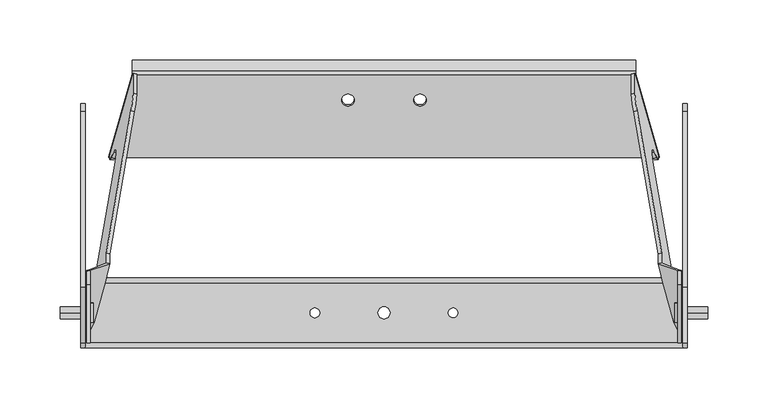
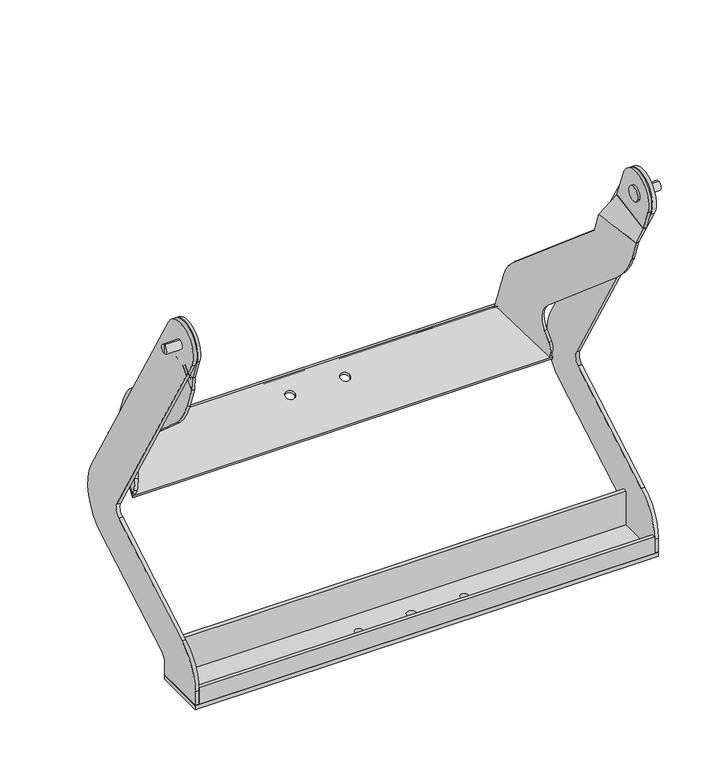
"""IFC4 building model written with IfcOpenShell, lengths in millimetres: proxy geometry, d&b M-Series M4 Flying Bracket : M4 Flying Bracket."""

import ifcopenshell
import ifcopenshell.guid

model = None  # the IFC model being written
_history = None  # IfcOwnerHistory: only IFC2X3 demands one
_inside = {}  # id of a spatial element -> (the spatial element, [elements in it])
_under = {}  # id of a project, library or spatial element -> (it, [spatial elements below it])
_declared = {}  # id of a project -> (the project, [libraries it declares])
_typed = {}  # id of a type object -> (the type object, [elements of that type])
_made_of = {}  # id of a material, layer set ... -> (it, [elements and type objects made of it])


def new_model(schema):
    """Start an empty IFC model of exactly this schema.

    Asked for "IFC4X3", IfcOpenShell would pick the latest addendum, in which some entities
    have other attributes; the version numbers below select the first issue.
    IFC2X3 requires an IfcOwnerHistory on every rooted entity: one is made here for all.
    """
    global model, _history
    if schema == "IFC4X3":
        model = ifcopenshell.file(schema_version=(4, 3, 0, 0))
    else:
        model = ifcopenshell.file(schema=schema)
    _inside.clear()
    _under.clear()
    _declared.clear()
    _typed.clear()
    _made_of.clear()
    _history = None
    if model.schema == "IFC2X3":
        org = make("IfcOrganization", Name="unknown")
        user = make(
            "IfcPersonAndOrganization",
            ThePerson=make("IfcPerson", FamilyName="unknown"),
            TheOrganization=org,
        )
        app = make(
            "IfcApplication",
            ApplicationDeveloper=org,
            Version="unknown",
            ApplicationFullName="unknown",
            ApplicationIdentifier="unknown",
        )
        _history = make(
            "IfcOwnerHistory",
            OwningUser=user,
            OwningApplication=app,
            ChangeAction="ADDED",
            CreationDate=0,
        )
    return model


def make(cls, **values):
    """One entity of the class cls with the attributes given. An attribute that is None is left unset."""
    return model.create_entity(
        cls, **{name: value for name, value in values.items() if value is not None}
    )


def rooted(cls, **values):
    """An entity with a GlobalId (a new one), such as an element, a storey or a relation."""
    return make(cls, GlobalId=ifcopenshell.guid.new(), OwnerHistory=_history, **values)


def si_unit(unit_type, name, prefix=None):
    """IfcSIUnit, for example si_unit("LENGTHUNIT", "METRE", prefix="MILLI")."""
    return make("IfcSIUnit", UnitType=unit_type, Prefix=prefix, Name=name)


def assignment(units):
    """IfcUnitAssignment: the units of a project."""
    return None if units is None else make("IfcUnitAssignment", Units=units)


def point(xyz):
    """IfcCartesianPoint."""
    return None if xyz is None else make("IfcCartesianPoint", Coordinates=xyz)


def direction(xyz):
    """IfcDirection."""
    return None if xyz is None else make("IfcDirection", DirectionRatios=xyz)


def frame(location, z_axis=None, x_axis=None):
    """IfcAxis2Placement3D, a coordinate frame: its origin and axes. An axis left out is left unset."""
    return make(
        "IfcAxis2Placement3D",
        Location=point(location),
        Axis=direction(z_axis),
        RefDirection=direction(x_axis),
    )


def frame_2d(location, x_axis=None):
    """IfcAxis2Placement2D, a coordinate frame in the plane: its origin and x axis."""
    return make(
        "IfcAxis2Placement2D", Location=point(location), RefDirection=direction(x_axis)
    )


def origin():
    """The frame at (0, 0, 0) with its axes left unset."""
    return frame((0.0, 0.0, 0.0))


def origin_2d():
    """The frame at (0, 0) in the plane with its x axis left unset."""
    return frame_2d((0.0, 0.0))


def place(relative_to, where):
    """IfcLocalPlacement: puts the frame where relative to a parent placement (None: the world)."""
    return make(
        "IfcLocalPlacement", PlacementRelTo=relative_to, RelativePlacement=where
    )


def context(
    kind, dimensions, precision=None, world=None, true_north=None, identifier=None
):
    """IfcGeometricRepresentationContext, for example the 3D "Model" context."""
    return make(
        "IfcGeometricRepresentationContext",
        ContextIdentifier=identifier,
        ContextType=kind,
        CoordinateSpaceDimension=dimensions,
        Precision=precision,
        WorldCoordinateSystem=world,
        TrueNorth=true_north,
    )


def project(units=None, contexts=None):
    """IfcProject with its units and contexts."""
    return rooted(
        "IfcProject",
        Name="project",
        RepresentationContexts=contexts,
        UnitsInContext=assignment(units),
    )


def spatial(cls, under=None, at=None, **own):
    """A site, building, storey or space (cls), placed at a placement, below another one or the project."""
    s = rooted(cls, ObjectPlacement=at, **own)
    if under is not None:
        _under.setdefault(under.id(), (under, []))[1].append(s)
    return s


def polyline(points):
    """IfcPolyline through the points."""
    return make("IfcPolyline", Points=[point(p) for p in points])


def circle_curve(where, radius):
    """IfcCircle in the frame where."""
    return make("IfcCircle", Position=where, Radius=radius)


def trimmed(basis, trim1, trim2, sense, master):
    """IfcTrimmedCurve: the piece of a basis curve between two trims."""
    return make(
        "IfcTrimmedCurve",
        BasisCurve=basis,
        Trim1=trim1,
        Trim2=trim2,
        SenseAgreement=sense,
        MasterRepresentation=master,
    )


def segment(curve, same_sense, transition):
    """IfcCompositeCurveSegment."""
    return make(
        "IfcCompositeCurveSegment",
        Transition=transition,
        SameSense=same_sense,
        ParentCurve=curve,
    )


def composite_curve(segments, self_intersect=None):
    """IfcCompositeCurve: segments joined end to end."""
    return make("IfcCompositeCurve", Segments=segments, SelfIntersect=self_intersect)


def outline(outer, holes=None, kind="AREA"):
    """IfcArbitraryClosedProfileDef: a profile drawn as a closed curve; with holes, ...WithVoids."""
    if holes is None:
        return make("IfcArbitraryClosedProfileDef", ProfileType=kind, OuterCurve=outer)
    return make(
        "IfcArbitraryProfileDefWithVoids",
        ProfileType=kind,
        OuterCurve=outer,
        InnerCurves=holes,
    )


def extrude(swept, where, along, depth):
    """IfcExtrudedAreaSolid: the profile swept, set in the frame where, extruded along a direction by depth."""
    return make(
        "IfcExtrudedAreaSolid",
        SweptArea=swept,
        Position=where,
        ExtrudedDirection=direction(along),
        Depth=depth,
    )


def shape(context_of_items, identifier, shape_type, items):
    """IfcShapeRepresentation: the items that make up one representation, for example the "Body"."""
    return make(
        "IfcShapeRepresentation",
        ContextOfItems=context_of_items,
        RepresentationIdentifier=identifier,
        RepresentationType=shape_type,
        Items=items,
    )


def source(mapping_origin, context_of_items, identifier, shape_type, items):
    """IfcRepresentationMap: a shape defined once, which mapped items show again and again."""
    return make(
        "IfcRepresentationMap",
        MappingOrigin=mapping_origin,
        MappedRepresentation=shape(context_of_items, identifier, shape_type, items),
    )


def transform(
    local_origin,
    x_axis=None,
    y_axis=None,
    z_axis=None,
    scale=None,
    scale2=None,
    scale3=None,
    uniform=True,
):
    """IfcCartesianTransformationOperator3D, or its non-uniform kind. x_axis, y_axis, z_axis: its Axis1, 2, 3."""
    if uniform:
        return make(
            "IfcCartesianTransformationOperator3D",
            Axis1=direction(x_axis),
            Axis2=direction(y_axis),
            LocalOrigin=point(local_origin),
            Scale=scale,
            Axis3=direction(z_axis),
        )
    return make(
        "IfcCartesianTransformationOperator3DnonUniform",
        Axis1=direction(x_axis),
        Axis2=direction(y_axis),
        LocalOrigin=point(local_origin),
        Scale=scale,
        Axis3=direction(z_axis),
        Scale2=scale2,
        Scale3=scale3,
    )


def mapped(mapping_source, mapping_target):
    """IfcMappedItem: shows the shape of a source again, moved by a transform."""
    return make(
        "IfcMappedItem", MappingSource=mapping_source, MappingTarget=mapping_target
    )


def made_of(thing, what):
    """Note that an element or type object is made of a material, layer set ...; save() writes the relation."""
    if what is not None:
        _made_of.setdefault(what.id(), (what, []))[1].append(thing)
    return thing


def element(
    cls,
    number,
    at=None,
    inside=None,
    cuts=None,
    type_object=None,
    material=None,
    context=None,
    identifier="Body",
    shape_type=None,
    held_by="IfcProductDefinitionShape",
    body=None,
    shapes=None,
    **own,
):
    """One element of the class cls, such as IfcWall. Its Tag is "e" and its number.

    at: its placement. inside: the storey or other place that contains it. cuts: it is an
    opening in that element (IfcRelVoidsElement). A single representation is given by context,
    identifier, shape_type and body (its items); several are given by shapes. held_by: the class
    of the entity that holds the representations. save() writes the other relations.
    """
    e = rooted(cls, Tag="e%d" % number, ObjectPlacement=at, **own)
    if body is not None:
        shapes = [shape(context, identifier, shape_type, body)]
    if shapes is not None:
        e.Representation = make(held_by, Representations=shapes)
    if inside is not None:
        _inside.setdefault(inside.id(), (inside, []))[1].append(e)
    if cuts is not None:
        rooted(
            "IfcRelVoidsElement", RelatingBuildingElement=cuts, RelatedOpeningElement=e
        )
    if type_object is not None:
        _typed.setdefault(type_object.id(), (type_object, []))[1].append(e)
    return made_of(e, material)


def aggregate(whole, parts):
    """IfcRelAggregates: a whole, such as a stair, and the parts it consists of."""
    return rooted("IfcRelAggregates", RelatingObject=whole, RelatedObjects=parts)


def save(model, path):
    """Write the relations noted so far, then the file.

    IfcRelAggregates (storeys below a building ...), IfcRelContainedInSpatialStructure (elements
    in a storey), IfcRelDefinesByType, IfcRelAssociatesMaterial and IfcRelDeclares: one each for
    every whole, place, type object, material and project.
    """
    for whole, parts in _under.values():
        aggregate(whole, parts)
    for where, things in _inside.values():
        rooted(
            "IfcRelContainedInSpatialStructure",
            RelatedElements=things,
            RelatingStructure=where,
        )
    for kind, things in _typed.values():
        rooted("IfcRelDefinesByType", RelatedObjects=things, RelatingType=kind)
    for what, things in _made_of.values():
        rooted("IfcRelAssociatesMaterial", RelatedObjects=things, RelatingMaterial=what)
    for by, libraries in _declared.values():
        rooted("IfcRelDeclares", RelatingContext=by, RelatedDefinitions=libraries)
    model.write(path)


def plane_surface(at):
    """IfcPlane: the flat surface through the origin of the frame at, square to its z axis."""
    return make("IfcPlane", Position=at)


def cylinder_surface(at, radius):
    """IfcCylindricalSurface: all points at the distance radius from the z axis of the frame at."""
    return make("IfcCylindricalSurface", Position=at, Radius=radius)


def revolved_surface(curve, axis_point, axis_direction):
    """IfcSurfaceOfRevolution: the curve turned about the line through axis_point along axis_direction."""
    return make(
        "IfcSurfaceOfRevolution",
        SweptCurve=make("IfcArbitraryOpenProfileDef", ProfileType="CURVE", Curve=curve),
        AxisPosition=make("IfcAxis1Placement", Location=point(axis_point), Axis=direction(axis_direction)),
    )


def spline_surface(u_degree, v_degree, points, u_multiplicities, v_multiplicities, u_knots, v_knots, weights=None):
    """IfcBSplineSurfaceWithKnots; with weights, IfcRationalBSplineSurfaceWithKnots. points: one row for each step in u."""
    own = dict(
        UDegree=u_degree,
        VDegree=v_degree,
        ControlPointsList=[[point(p) for p in row] for row in points],
        SurfaceForm="UNSPECIFIED",
        UClosed=False,
        VClosed=False,
        SelfIntersect=False,
        UMultiplicities=u_multiplicities,
        VMultiplicities=v_multiplicities,
        UKnots=u_knots,
        VKnots=v_knots,
        KnotSpec="UNSPECIFIED",
    )
    if weights is None:
        return make("IfcBSplineSurfaceWithKnots", **own)
    return make("IfcRationalBSplineSurfaceWithKnots", WeightsData=weights, **own)


def advanced_brep(points, edges, surfaces, faces):
    """IfcAdvancedBrep: a solid bounded by faces that lie on surfaces and meet in shared edges.

    An edge is (start, end): straight between two places in points (the first is 0);
    or (start, end, curve); or (start, end, curve, False) where it runs against its curve.
    A face is (place in surfaces, loops), or (place, loops, False) where it looks against
    its surface's normal. A loop lists edges by number (the first is 1), with a minus sign
    where the edge is run from its end to its start. The first loop is the outer one.
    """
    corners = [point(p) for p in points]
    vertices = [make("IfcVertexPoint", VertexGeometry=c) for c in corners]
    made = []
    for start, end, *more in edges:
        made.append(
            make(
                "IfcEdgeCurve",
                EdgeStart=vertices[start],
                EdgeEnd=vertices[end],
                EdgeGeometry=more[0] if more else make("IfcPolyline", Points=[corners[start], corners[end]]),
                SameSense=more[1] if len(more) > 1 else True,
            )
        )
    hull = []
    for where, loops, *sense in faces:
        bounds = []
        for j, loop in enumerate(loops):
            ring = [make("IfcOrientedEdge", EdgeElement=made[abs(k) - 1], Orientation=k > 0) for k in loop]
            bounds.append(
                make(
                    "IfcFaceOuterBound" if j == 0 else "IfcFaceBound",
                    Bound=make("IfcEdgeLoop", EdgeList=ring),
                    Orientation=True,
                )
            )
        hull.append(make("IfcAdvancedFace", Bounds=bounds, FaceSurface=surfaces[where], SameSense=sense[0] if sense else True))
    return make("IfcAdvancedBrep", Outer=make("IfcClosedShell", CfsFaces=hull))


def communication_devices_8cd92982(model_context):
    return source(origin(), model_context, "Body", "SolidModel", [
        advanced_brep(
        [(244.5052794, 35.0687036, 346.7400645), (244.504496, -14.8256203, 337.641921), (247.4984362, -14.8497831, 337.7744302), (247.4992196, 35.0445409, 346.8725736), (228.0639078, 40.6372773, 326.4637984), (230.9616853, 41.3669083, 326.7293623), (243.9026376, -7.0321292, 318.495716), (241.0048601, -7.7617603, 318.230152)],
        [
            (0, 1),
            (1, 2),
            (2, 3),
            (3, 0),
            (4, 5),
            (5, 6),
            (6, 7),
            (7, 4),
            (4, 0),
            (3, 5),
            (2, 6),
            (1, 7),
        ],
        [
            plane_surface(frame((246.0018578, 10.1094603, 342.2572473), z_axis=(-0.04494345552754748, -0.1792082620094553, 0.9827840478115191), x_axis=(-0.9989895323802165, 0.008062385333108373, -0.0442143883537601))),
            plane_surface(frame((235.9832727, 16.802574, 322.4797572), z_axis=(0.04494345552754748, 0.1792082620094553, -0.9827840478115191), x_axis=(-0.9989895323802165, 0.008062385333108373, -0.0442143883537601))),
            spline_surface(1, 1, [[(230.9616853, 41.3669083, 326.7293623), (247.4992196, 35.0445409, 346.8725736)], [(228.0639078, 40.6372773, 326.4637984), (244.5052794, 35.0687036, 346.7400645)]], [2, 2], [2, 2], [0.0, 1.0], [0.0, 1.0]),
            spline_surface(1, 1, [[(243.9026376, -7.0321292, 318.495716), (247.4984362, -14.8497831, 337.7744302)], [(230.9616853, 41.3669083, 326.7293623), (247.4992196, 35.0445409, 346.8725736)]], [2, 2], [2, 2], [0.0, 1.0], [0.0, 1.0]),
            spline_surface(1, 1, [[(241.0048601, -7.7617603, 318.230152), (244.504496, -14.8256203, 337.641921)], [(243.9026376, -7.0321292, 318.495716), (247.4984362, -14.8497831, 337.7744302)]], [2, 2], [2, 2], [0.0, 1.0], [0.0, 1.0]),
            spline_surface(1, 1, [[(228.0639078, 40.6372773, 326.4637984), (244.5052794, 35.0687036, 346.7400645)], [(241.0048601, -7.7617603, 318.230152), (244.504496, -14.8256203, 337.641921)]], [2, 2], [2, 2], [0.0, 1.0], [0.0, 1.0]),
        ],
        [
            (0, [[1, 2, 3, 4]]),
            (1, [[5, 6, 7, 8]]),
            (2, [[-5, 9, -4, 10]]),
            (3, [[-6, -10, -3, 11]]),
            (4, [[-7, -11, -2, 12]]),
            (5, [[-8, -12, -1, -9]]),
        ],
    ),
        extrude(outline(composite_curve([segment(polyline([(104.5689878, 0.0), (180.197191, -1e-07), (180.1971911, -6.0833657)]), True, "CONTINUOUS"), segment(trimmed(circle_curve(frame_2d((162.814116, -6.0833657)), 17.383075), [point((180.1971911, -6.0833657))], [point((175.3152275, -18.1620042))], False, "CARTESIAN"), True, "CONTINUOUS"), segment(polyline([(175.3152275, -18.1620042), (167.0292158, -26.7378346)]), True, "CONTINUOUS"), segment(trimmed(circle_curve(frame_2d((188.6038419, -47.58335)), 30.0), [point((167.0292158, -26.7378346))], [point((162.6230798, -62.58335))], True, "CARTESIAN"), True, "CONTINUOUS"), segment(polyline([(162.6230798, -62.58335), (229.5617624, -178.5245492)]), True, "CONTINUOUS"), segment(trimmed(circle_curve(frame_2d((160.2797301, -218.5245492)), 80.0), [point((229.5617624, -178.5245492))], [point((240.2797301, -218.5245492))], False, "CARTESIAN"), True, "CONTINUOUS"), segment(polyline([(240.2797301, -218.5245492), (240.2797301, -244.0319149), (190.27973, -235.2155659), (190.2797301, -210.4860734), (111.2677177, -73.6332534)]), True, "CONTINUOUS"), segment(trimmed(circle_curve(frame_2d((154.5689878, -48.6332534)), 50.0), [point((111.2677177, -73.6332534))], [point((104.5689878, -48.6332534))], False, "CARTESIAN"), True, "CONTINUOUS"), segment(polyline([(104.5689878, -48.6332534), (104.5689878, 0.0)]), True, "CONTINUOUS")], self_intersect=False)), frame((178.8158898, 293.7975829, 168.2954372), z_axis=(0.9659258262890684, 0.2432103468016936, 0.08852132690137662), x_axis=(0.2588190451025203, -0.9076733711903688, -0.3303660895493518)), (0.0, 0.0, 1.0), 3.0),
        extrude(outline(composite_curve([segment(trimmed(circle_curve(frame_2d((0.0, -8.2)), 8.2), [point((-1e-07, -16.4))], [point((0.0, 0.0))], False, "CARTESIAN"), True, "CONTINUOUS"), segment(trimmed(circle_curve(frame_2d((0.0, -8.2)), 8.2), [point((0.0, 0.0))], [point((-1e-07, -16.4))], False, "CARTESIAN"), True, "CONTINUOUS")], self_intersect=False)), frame((242.0565382, -7.707096, 367.1985495), z_axis=(0.9999999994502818, -1.5277969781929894e-05, 2.942821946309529e-05), x_axis=(-3.287885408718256e-05, -0.34202014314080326, 0.9396926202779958)), (0.0, 0.0, 1.0), 2.4488042),
        extrude(outline(composite_curve([segment(trimmed(circle_curve(frame_2d((0.0085442, 369.976526)), 25.0), [point((-23.4837713, 361.4260224))], [point((23.5008597, 378.5270296))], False, "CARTESIAN"), True, "CONTINUOUS"), segment(polyline([(23.5008597, 378.5270296), (35.0670317, 346.7492332), (-14.8241685, 337.6339593), (-23.4837713, 361.4260224)]), True, "CONTINUOUS")], self_intersect=False)), frame((244.5048601, 0.0, 0.0), z_axis=(1.0, 0.0, 0.0), x_axis=(0.0, 1.0, 0.0)), (0.0, 0.0, 1.0), 3.0),
        advanced_brep(
        [(-244.5052794, 35.0687036, 346.7400645), (-247.4992196, 35.0445409, 346.8725736), (-247.4984362, -14.8497831, 337.7744302), (-244.504496, -14.8256203, 337.641921), (-228.0639078, 40.6372773, 326.4637984), (-241.0048601, -7.7617603, 318.230152), (-243.9026376, -7.0321292, 318.495716), (-230.9616853, 41.3669083, 326.7293623)],
        [
            (0, 1),
            (1, 2),
            (2, 3),
            (3, 0),
            (4, 5),
            (5, 6),
            (6, 7),
            (7, 4),
            (7, 1),
            (0, 4),
            (6, 2),
            (5, 3),
        ],
        [
            plane_surface(frame((-246.0018578, 10.1094603, 342.2572473), z_axis=(0.04494345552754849, -0.1792082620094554, 0.9827840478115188), x_axis=(1.5446243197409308e-05, -0.9837779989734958, -0.17939021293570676))),
            plane_surface(frame((-235.9832727, 16.802574, 322.4797572), z_axis=(-0.04494345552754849, 0.1792082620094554, -0.9827840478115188), x_axis=(1.5446243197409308e-05, -0.9837779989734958, -0.17939021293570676))),
            spline_surface(1, 1, [[(-228.0639078, 40.6372773, 326.4637984), (-244.5052794, 35.0687036, 346.7400645)], [(-230.9616853, 41.3669083, 326.7293623), (-247.4992196, 35.0445409, 346.8725736)]], [2, 2], [2, 2], [0.0, 1.0], [0.0, 1.0]),
            spline_surface(1, 1, [[(-230.9616853, 41.3669083, 326.7293623), (-247.4992196, 35.0445409, 346.8725736)], [(-243.9026376, -7.0321292, 318.495716), (-247.4984362, -14.8497831, 337.7744302)]], [2, 2], [2, 2], [0.0, 1.0], [0.0, 1.0]),
            spline_surface(1, 1, [[(-243.9026376, -7.0321292, 318.495716), (-247.4984362, -14.8497831, 337.7744302)], [(-241.0048601, -7.7617603, 318.230152), (-244.504496, -14.8256203, 337.641921)]], [2, 2], [2, 2], [0.0, 1.0], [0.0, 1.0]),
            spline_surface(1, 1, [[(-241.0048601, -7.7617603, 318.230152), (-244.504496, -14.8256203, 337.641921)], [(-228.0639078, 40.6372773, 326.4637984), (-244.5052794, 35.0687036, 346.7400645)]], [2, 2], [2, 2], [0.0, 1.0], [0.0, 1.0]),
        ],
        [
            (0, [[1, 2, 3, 4]]),
            (1, [[5, 6, 7, 8]]),
            (2, [[-8, 9, -1, 10]]),
            (3, [[-7, 11, -2, -9]]),
            (4, [[-6, 12, -3, -11]]),
            (5, [[-5, -10, -4, -12]]),
        ],
    ),
        extrude(outline(composite_curve([segment(polyline([(-48.6332535, 0.0), (0.0, 0.0)]), True, "CONTINUOUS"), segment(trimmed(circle_curve(frame_2d((0.0, -50.0)), 50.0), [point((0.0, 0.0))], [point((25.0, -6.6987299))], False, "CARTESIAN"), True, "CONTINUOUS"), segment(polyline([(25.0, -6.6987299), (161.85282, -85.7107423), (186.5823124, -85.7107422), (195.3986614, -135.7107423), (169.8912957, -135.7107423)]), True, "CONTINUOUS"), segment(trimmed(circle_curve(frame_2d((169.8912958, -55.7107423)), 80.0), [point((169.8912957, -135.7107423))], [point((129.8912958, -124.9927746))], False, "CARTESIAN"), True, "CONTINUOUS"), segment(polyline([(129.8912958, -124.9927746), (13.9500965, -58.054092)]), True, "CONTINUOUS"), segment(trimmed(circle_curve(frame_2d((-1.0499035, -84.0348541)), 30.0), [point((13.9500965, -58.054092))], [point((-21.8954189, -62.460228))], True, "CARTESIAN"), True, "CONTINUOUS"), segment(polyline([(-21.8954189, -62.460228), (-30.4712492, -70.7462397)]), True, "CONTINUOUS"), segment(trimmed(circle_curve(frame_2d((-42.5498878, -58.2451282)), 17.383075), [point((-30.4712492, -70.7462397))], [point((-42.5498877, -75.6282032))], False, "CARTESIAN"), True, "CONTINUOUS"), segment(polyline([(-42.5498877, -75.6282032), (-48.6332534, -75.6282032), (-48.6332535, 0.0)]), True, "CONTINUOUS")], self_intersect=False)), frame((-205.8803354, 182.2495449, 179.449699), z_axis=(-0.9659258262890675, 0.2432103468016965, 0.08852132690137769), x_axis=(0.0, -0.3420201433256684, 0.9396926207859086)), (0.0, 0.0, 1.0), 3.0),
        extrude(outline(composite_curve([segment(trimmed(circle_curve(frame_2d((0.0, -8.2)), 8.2), [point((1e-07, -16.4))], [point((0.0, 0.0))], False, "CARTESIAN"), True, "CONTINUOUS"), segment(trimmed(circle_curve(frame_2d((0.0, -8.2)), 8.2), [point((0.0, 0.0))], [point((1e-07, -16.4))], False, "CARTESIAN"), True, "CONTINUOUS")], self_intersect=False)), frame((-242.0565382, -7.707096, 367.1985495), z_axis=(-0.9999999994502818, -1.5277969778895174e-05, 2.9428219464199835e-05), x_axis=(-3.287885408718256e-05, 0.34202014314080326, -0.9396926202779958)), (0.0, 0.0, 1.0), 2.4488042),
        extrude(outline(composite_curve([segment(trimmed(circle_curve(frame_2d((0.0085442, 369.976526)), 25.0), [point((-23.4837713, 361.4260224))], [point((23.5008597, 378.5270296))], False, "CARTESIAN"), True, "CONTINUOUS"), segment(polyline([(23.5008597, 378.5270296), (35.0670317, 346.7492332), (-14.8241685, 337.6339593), (-23.4837713, 361.4260224)]), True, "CONTINUOUS")], self_intersect=False)), frame((-247.5048601, 0.0, 0.0), z_axis=(1.0, 0.0, 0.0), x_axis=(0.0, 1.0, 0.0)), (0.0, 0.0, 1.0), 3.0),
        advanced_brep(
        [(209.2857399, 198.8585502, 130.547922), (228.8375847, 130.29061, 105.5912327), (-228.8375847, 130.29061, 105.5912327), (-209.2857399, 198.8585502, 130.547922), (-24.75, 178.1932418, 123.0263648), (-35.25, 178.1932418, 123.0263648), (24.75, 178.1932418, 123.0263648), (35.25, 178.1932418, 123.0263648), (-209.2857399, 197.8324898, 133.3669998), (-228.8375847, 129.2645496, 108.4103106), (228.8375847, 129.2645496, 108.4103106), (209.2857399, 197.8324898, 133.3669998), (-35.25, 177.1671814, 125.8454427), (-24.75, 177.1671814, 125.8454427), (35.25, 177.1671814, 125.8454427), (24.75, 177.1671814, 125.8454427), (209.2857399, 208.5936276, 123.0319258), (209.2857399, 210.5219904, 125.3300591), (209.2857399, 201.7717208, 132.6724071), (209.2857399, 199.843358, 130.3742738), (-209.2857399, 208.5936276, 123.0319258), (-209.2857399, 199.843358, 130.3742738), (-209.2857399, 201.7717208, 132.6724071), (-209.2857399, 210.5219904, 125.3300591)],
        [
            (0, 1),
            (1, 2),
            (2, 3),
            (3, 0),
            (4, 5, circle_curve(frame((-30.0, 178.1932418, 123.0263648), z_axis=(0.0, -0.34202014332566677, 0.9396926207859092), x_axis=(1.0, 0.0, 0.0)), 5.25)),
            (5, 4, circle_curve(frame((-30.0, 178.1932418, 123.0263648), z_axis=(0.0, -0.34202014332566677, 0.9396926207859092), x_axis=(1.0, 0.0, 0.0)), 5.25)),
            (6, 7, circle_curve(frame((30.0, 178.1932418, 123.0263648), z_axis=(0.0, -0.34202014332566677, 0.9396926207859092), x_axis=(-1.0, 0.0, 0.0)), 5.25)),
            (7, 6, circle_curve(frame((30.0, 178.1932418, 123.0263648), z_axis=(0.0, -0.34202014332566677, 0.9396926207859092), x_axis=(-1.0, 0.0, 0.0)), 5.25)),
            (8, 9),
            (9, 10),
            (10, 11),
            (11, 8),
            (12, 13, circle_curve(frame((-30.0, 177.1671814, 125.8454427), z_axis=(0.0, 0.34202014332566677, -0.9396926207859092), x_axis=(1.0, 0.0, 0.0)), 5.25)),
            (13, 12, circle_curve(frame((-30.0, 177.1671814, 125.8454427), z_axis=(0.0, 0.34202014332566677, -0.9396926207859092), x_axis=(1.0, 0.0, 0.0)), 5.25)),
            (14, 15, circle_curve(frame((30.0, 177.1671814, 125.8454427), z_axis=(0.0, 0.34202014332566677, -0.9396926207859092), x_axis=(-1.0, 0.0, 0.0)), 5.25)),
            (15, 14, circle_curve(frame((30.0, 177.1671814, 125.8454427), z_axis=(0.0, 0.34202014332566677, -0.9396926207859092), x_axis=(-1.0, 0.0, 0.0)), 5.25)),
            (1, 10),
            (9, 2),
            (16, 17),
            (17, 18),
            (18, 11, circle_curve(frame((209.2857399, 199.2005702, 129.6082292), z_axis=(1.0, 0.0, 0.0), x_axis=(0.0, -0.9396926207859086, -0.3420201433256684)), 4.0000002)),
            (11, 0),
            (0, 19, circle_curve(frame((209.2857399, 199.2005702, 129.6082292), z_axis=(-1.0, 0.0, 0.0), x_axis=(0.0, -0.9396926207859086, -0.3420201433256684)), 1.0000002)),
            (19, 16),
            (20, 21),
            (21, 3, circle_curve(frame((-209.2857399, 199.2005702, 129.6082292), z_axis=(1.0, 0.0, 0.0), x_axis=(0.0, -0.9396926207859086, -0.3420201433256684)), 1.0000002)),
            (3, 8),
            (8, 22, circle_curve(frame((-209.2857399, 199.2005702, 129.6082292), z_axis=(-1.0, 0.0, 0.0), x_axis=(0.0, -0.9396926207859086, -0.3420201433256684)), 4.0000002)),
            (22, 23),
            (23, 20),
            (16, 20),
            (23, 17),
            (22, 18),
            (21, 19),
            (12, 5),
            (4, 13),
            (14, 7),
            (6, 15),
        ],
        [
            plane_surface(frame((115.0144144, 198.8585502, 130.547922), z_axis=(0.0, 0.34202014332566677, -0.9396926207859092), x_axis=(1.0, 0.0, 0.0))),
            plane_surface(frame((115.0144144, 197.8324898, 133.3669998), z_axis=(0.0, -0.34202014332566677, 0.9396926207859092), x_axis=(-1.0, 0.0, 0.0))),
            plane_surface(frame((228.8375847, 130.29061, 105.5912327), z_axis=(0.0, -0.9396926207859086, -0.3420201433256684), x_axis=(0.0, -0.3420201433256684, 0.9396926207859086))),
            plane_surface(frame((209.2857399, 210.5219904, 125.3300591), z_axis=(1.0000000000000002, 0.0, 0.0), x_axis=(0.0, 0.6427876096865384, 0.766044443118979))),
            plane_surface(frame((-209.2857399, 210.5219904, 125.3300591), z_axis=(-1.0000000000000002, 0.0, 0.0), x_axis=(0.0, -0.6427876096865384, -0.766044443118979))),
            plane_surface(frame((209.2857399, 208.5936276, 123.0319258), z_axis=(0.0, 0.766044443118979, -0.6427876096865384), x_axis=(-1.0, 0.0, 0.0))),
            plane_surface(frame((209.2857399, 210.5219904, 125.3300591), z_axis=(0.0, 0.6427876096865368, 0.7660444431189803), x_axis=(-1.0, 0.0, 0.0))),
            cylinder_surface(frame((-209.2857399, 199.2005702, 129.6082292), z_axis=(1.0, 0.0, 0.0), x_axis=(0.0, -0.9396926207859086, -0.3420201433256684)), 4.0000002),
            revolved_surface(polyline([(-209.2857399, 198.26087739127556, 129.2662089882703), (209.2857399, 198.26087739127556, 129.2662089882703)]), (-209.2857399, 199.2005702, 129.6082292), (-1.0, 0.0, 0.0)),
            plane_surface(frame((209.2857399, 199.843358, 130.3742738), z_axis=(0.0, -0.6427876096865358, -0.766044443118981), x_axis=(-1.0, 0.0, 0.0))),
            plane_surface(frame((209.2857399, 198.8585502, 130.547922), z_axis=(0.9659258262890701, 0.2432103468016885, 0.08852132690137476), x_axis=(0.0, -0.3420201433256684, 0.9396926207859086))),
            plane_surface(frame((-228.8375847, 130.29061, 105.5912327), z_axis=(-0.9659258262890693, 0.24321034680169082, 0.08852132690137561), x_axis=(0.0, -0.3420201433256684, 0.9396926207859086))),
            revolved_surface(polyline([(-24.75, 178.19324183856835, 123.02636481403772), (-24.75, 177.1671814, 125.8454427)]), (-30.0, 177.1671814, 125.8454427), (0.0, 0.34202014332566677, -0.9396926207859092)),
            revolved_surface(polyline([(24.75, 178.19324183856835, 123.02636481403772), (24.75, 177.1671814, 125.8454427)]), (30.0, 177.1671814, 125.8454427), (0.0, 0.34202014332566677, -0.9396926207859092)),
        ],
        [
            (0, [[1, 2, 3, 4], [5, 6], [7, 8]]),
            (1, [[9, 10, 11, 12], [13, 14], [15, 16]]),
            (2, [[-2, 17, -10, 18]]),
            (3, [[19, 20, 21, 22, 23, 24]]),
            (4, [[25, 26, 27, 28, 29, 30]]),
            (5, [[-19, 31, -30, 32]]),
            (6, [[-20, -32, -29, 33]]),
            (7, [[-21, -33, -28, -12]]),
            (8, [[-23, -4, -26, 34]]),
            (9, [[-24, -34, -25, -31]]),
            (10, [[-1, -22, -11, -17]]),
            (11, [[-3, -18, -9, -27]]),
            (12, [[35, -5, 36, -13]]),
            (12, [[-35, -14, -36, -6]]),
            (13, [[37, -7, 38, -15]]),
            (13, [[-37, -16, -38, -8]]),
        ],
    ),
        extrude(outline(polyline([(248.5048601, 29.0), (248.5048601, 24.9947219), (-248.4951399, 24.9947219), (-248.4951399, 29.0), (248.5048601, 29.0)])), frame((0.0, 0.0, -29.0421952), z_axis=(0.0, 0.0, 1.0), x_axis=(1.0, 0.0, 0.0)), (0.0, 0.0, 1.0), 39.0),
        extrude(outline(polyline([(248.5048601, -24.9947219), (248.5048601, -29.0), (-248.4951399, -29.0), (-248.4951399, -24.9947219), (248.5048601, -24.9947219)])), frame((0.0, 0.0, -29.0421952), z_axis=(0.0, 0.0, 1.0), x_axis=(1.0, 0.0, 0.0)), (0.0, 0.0, 1.0), 19.0),
        extrude(outline(polyline([(252.5048601, 29.0), (252.5048601, -29.0), (-252.4951399, -29.0), (-252.4951399, 29.0), (252.5048601, 29.0)]), holes=[composite_curve([segment(trimmed(circle_curve(frame_2d((-57.5, 0.0)), 4.0277425), [point((-61.5277425, 0.0))], [point((-53.4722575, 0.0))], True, "CARTESIAN"), True, "CONTINUOUS"), segment(trimmed(circle_curve(frame_2d((-57.5, 0.0)), 4.0277425), [point((-53.4722575, 0.0))], [point((-61.5277425, 0.0))], True, "CARTESIAN"), True, "CONTINUOUS")], self_intersect=False), composite_curve([segment(trimmed(circle_curve(origin_2d(), 5.0), [point((-5.0, 0.0))], [point((5.0, 0.0))], True, "CARTESIAN"), True, "CONTINUOUS"), segment(trimmed(circle_curve(origin_2d(), 5.0), [point((5.0, 0.0))], [point((-5.0, 0.0))], True, "CARTESIAN"), True, "CONTINUOUS")], self_intersect=False), composite_curve([segment(trimmed(circle_curve(frame_2d((57.5, 0.0)), 4.0), [point((53.5, 0.0))], [point((61.5, 0.0))], True, "CARTESIAN"), True, "CONTINUOUS"), segment(trimmed(circle_curve(frame_2d((57.5, 0.0)), 4.0), [point((61.5, 0.0))], [point((53.5, 0.0))], True, "CARTESIAN"), True, "CONTINUOUS")], self_intersect=False)]), frame((0.0, 0.0, -34.0421952), z_axis=(0.0, 0.0, 1.0), x_axis=(1.0, 0.0, 0.0)), (0.0, 0.0, 1.0), 5.0),
        extrude(outline(composite_curve([segment(polyline([(21.4504736, 382.3844377), (167.5626099, 129.310794)]), True, "CONTINUOUS"), segment(trimmed(circle_curve(frame_2d((124.2613397, 104.310794)), 50.0), [point((167.5626099, 129.310794))], [point((149.2613397, 61.0095238))], False, "CARTESIAN"), True, "CONTINUOUS"), segment(polyline([(149.2613397, 61.0095238), (34.0, -5.5366417)]), True, "CONTINUOUS"), segment(trimmed(circle_curve(frame_2d((39.0, -14.1968957)), 10.0), [point((34.0, -5.5366417))], [point((29.0, -14.1968957))], True, "CARTESIAN"), True, "CONTINUOUS"), segment(polyline([(29.0, -14.1968957), (29.0, -29.0421952), (-29.0, -29.0421952), (-29.0, -13.0421952)]), True, "CONTINUOUS"), segment(trimmed(circle_curve(frame_2d((21.0, -13.0421952)), 50.0), [point((-29.0, -13.0421952))], [point((-4.0, 30.259075))], False, "CARTESIAN"), True, "CONTINUOUS"), segment(polyline([(-4.0, 30.259075), (115.5929847, 99.3061169)]), True, "CONTINUOUS"), segment(trimmed(circle_curve(frame_2d((110.5929847, 107.966371)), 10.0), [point((115.5929847, 99.3061169))], [point((119.2534368, 112.9660278))], True, "CARTESIAN"), True, "CONTINUOUS"), segment(polyline([(119.2534368, 112.9660278), (-21.8497087, 357.3862095)]), True, "CONTINUOUS"), segment(trimmed(circle_curve(frame_2d((-0.1993699, 369.8848947)), 24.9990859), [point((-21.8497087, 357.3862095))], [point((21.4504736, 382.3844377))], False, "CARTESIAN"), True, "CONTINUOUS")], self_intersect=False)), frame((-252.4951399, 0.0, 0.0), z_axis=(1.0, 0.0, 0.0), x_axis=(0.0, 1.0, 0.0)), (0.0, 0.0, 1.0), 4.0),
        extrude(outline(composite_curve([segment(polyline([(21.4506615, 382.3842229), (167.5626118, 129.3107825)]), True, "CONTINUOUS"), segment(trimmed(circle_curve(frame_2d((124.2613382, 104.3107923)), 49.999998), [point((167.5626118, 129.3107825))], [point((149.2613376, 61.009524))], False, "CARTESIAN"), True, "CONTINUOUS"), segment(polyline([(149.2613376, 61.009524), (33.9999999, -5.5366417)]), True, "CONTINUOUS"), segment(trimmed(circle_curve(frame_2d((39.0, -14.1968957)), 10.0), [point((33.9999999, -5.5366417))], [point((29.0, -14.1968957))], True, "CARTESIAN"), True, "CONTINUOUS"), segment(polyline([(29.0, -14.1968957), (29.0, -29.0421952), (-29.0, -29.0421952), (-29.0, -13.0421952)]), True, "CONTINUOUS"), segment(trimmed(circle_curve(frame_2d((21.0, -13.0421952)), 50.0), [point((-29.0, -13.0421952))], [point((-3.9999979, 30.2590762))], False, "CARTESIAN"), True, "CONTINUOUS"), segment(polyline([(-3.9999979, 30.2590762), (115.5929978, 99.3061168)]), True, "CONTINUOUS"), segment(trimmed(circle_curve(frame_2d((110.5929927, 107.9663807)), 10.0000111), [point((115.5929978, 99.3061168))], [point((119.2534479, 112.9660543))], True, "CARTESIAN"), True, "CONTINUOUS"), segment(polyline([(119.2534479, 112.9660543), (-21.8498518, 357.3857721)]), True, "CONTINUOUS"), segment(trimmed(circle_curve(frame_2d((-0.1993569, 369.8845848)), 24.999285), [point((-21.8498518, 357.3857721))], [point((21.4506615, 382.3842229))], False, "CARTESIAN"), True, "CONTINUOUS")], self_intersect=False)), frame((248.5048601, 0.0, 0.0), z_axis=(1.0, 0.0, 0.0), x_axis=(0.0, 1.0, 0.0)), (0.0, 0.0, 1.0), 4.0),
        advanced_brep(
        [(-252.4951399, 0.0, 375.000001), (-252.4951399, 0.0, 365.000001), (-269.5, 0.0, 365.000001), (-269.5, 0.0, 375.000001), (-252.4951399, 0.0, 370.000001), (-269.5, 0.0, 370.000001)],
        [
            (0, 1, circle_curve(frame((-252.4951399, 0.0, 370.000001), z_axis=(-1.0, 0.0, 0.0), x_axis=(0.0, 0.0, -1.0)), 5.0)),
            (1, 2),
            (2, 3, circle_curve(frame((-269.5, 0.0, 370.000001), z_axis=(1.0, 0.0, 0.0), x_axis=(0.0, 0.0, -1.0)), 5.0)),
            (3, 0),
            (1, 0, circle_curve(frame((-252.4951399, 0.0, 370.000001), z_axis=(-1.0, 0.0, 0.0), x_axis=(0.0, 0.0, -1.0)), 5.0)),
            (3, 2, circle_curve(frame((-269.5, 0.0, 370.000001), z_axis=(1.0, 0.0, 0.0), x_axis=(0.0, 0.0, -1.0)), 5.0)),
            (4, 1),
            (0, 4),
            (2, 5),
            (5, 3),
        ],
        [
            cylinder_surface(frame((-294.5, 0.0, 370.000001), z_axis=(1.0, 0.0, 0.0), x_axis=(0.0, 0.0, -1.0)), 5.0),
            plane_surface(frame((-252.4951399, 0.0, 370.000001), z_axis=(1.0, 0.0, 0.0), x_axis=(0.0, 0.0, -1.0))),
            plane_surface(frame((-269.5, 0.0, 370.000001), z_axis=(-1.0, 0.0, 0.0), x_axis=(0.0, 0.0, -1.0))),
        ],
        [
            (0, [[1, 2, 3, 4]]),
            (0, [[5, -4, 6, -2]]),
            (1, [[7, -1, 8]]),
            (1, [[-8, -5, -7]]),
            (2, [[-3, 9, 10]]),
            (2, [[-6, -10, -9]]),
        ],
    ),
        advanced_brep(
        [(269.5, 0.0, 370.000001), (269.5, 0.0, 365.000001), (269.5, 0.0, 375.000001), (252.4951399, 0.0, 375.000001), (252.4951399, 0.0, 365.000001), (252.4951399, 0.0, 370.000001)],
        [
            (0, 1),
            (1, 2, circle_curve(frame((269.5, 0.0, 370.000001), z_axis=(1.0, 0.0, 0.0), x_axis=(0.0, 0.0, -1.0)), 5.0)),
            (2, 0),
            (2, 1, circle_curve(frame((269.5, 0.0, 370.000001), z_axis=(1.0, 0.0, 0.0), x_axis=(0.0, 0.0, -1.0)), 5.0)),
            (3, 4, circle_curve(frame((252.4951399, 0.0, 370.000001), z_axis=(-1.0, 0.0, 0.0), x_axis=(0.0, 0.0, -1.0)), 5.0)),
            (4, 5),
            (5, 3),
            (4, 3, circle_curve(frame((252.4951399, 0.0, 370.000001), z_axis=(-1.0, 0.0, 0.0), x_axis=(0.0, 0.0, -1.0)), 5.0)),
            (1, 4),
            (3, 2),
        ],
        [
            plane_surface(frame((269.5, 0.0, 370.000001), z_axis=(1.0, 0.0, 0.0), x_axis=(0.0, 0.0, -1.0))),
            plane_surface(frame((252.4951399, 0.0, 370.000001), z_axis=(-1.0, 0.0, 0.0), x_axis=(0.0, 0.0, -1.0))),
            cylinder_surface(frame((-294.5, 0.0, 370.000001), z_axis=(1.0, 0.0, 0.0), x_axis=(0.0, 0.0, -1.0)), 5.0),
        ],
        [
            (0, [[1, 2, 3]]),
            (0, [[-3, 4, -1]]),
            (1, [[5, 6, 7]]),
            (1, [[8, -7, -6]]),
            (2, [[-2, 9, -5, 10]]),
            (2, [[-4, -10, -8, -9]]),
        ],
    ),
    ])


if __name__ == "__main__":
    model = new_model("IFC4")
    model_context = context("Model", 3, world=origin())
    ifc_project = project(units=[si_unit("LENGTHUNIT", "METRE", prefix="MILLI")], contexts=[model_context])
    site = spatial("IfcSite", under=ifc_project)
    building = spatial("IfcBuilding", under=site)
    placement = place(None, origin())
    communication_devices_shape = communication_devices_8cd92982(model_context)
    element("IfcBuildingElementProxy", 1, Name="d&b M-Series M4 Flying Bracket : M4 Flying Bracket", ObjectType="d&b M-Series M4 Flying Bracket : M4 Flying Bracket", at=placement, inside=building, context=model_context, shape_type="MappedRepresentation", body=[
        mapped(communication_devices_shape, transform((0.0, 0.0, 0.0), x_axis=(1.0, 0.0, 0.0), y_axis=(0.0, 1.0, 0.0), z_axis=(0.0, 0.0, 1.0))),
    ])
    save(model, "model.ifc")
